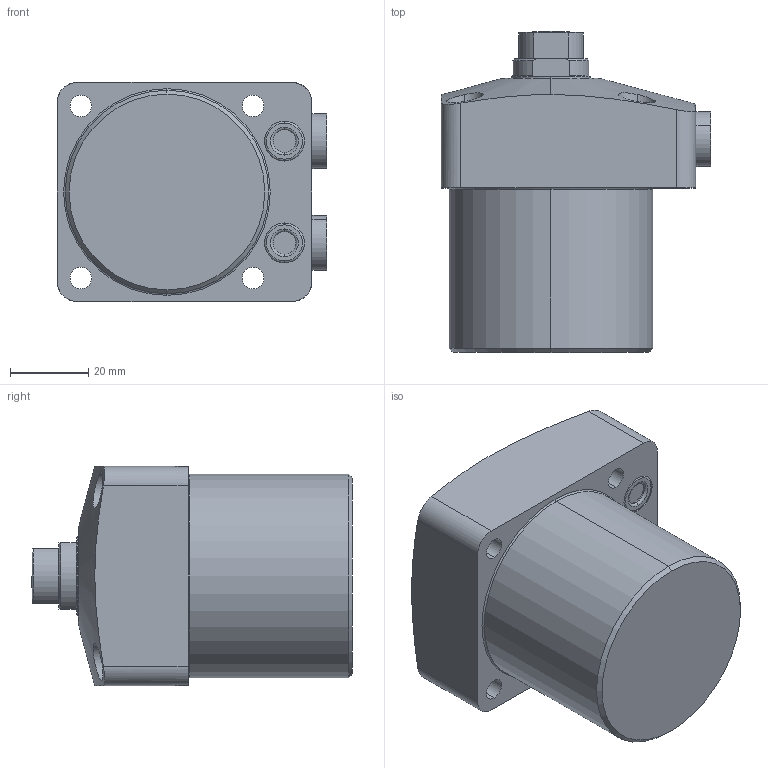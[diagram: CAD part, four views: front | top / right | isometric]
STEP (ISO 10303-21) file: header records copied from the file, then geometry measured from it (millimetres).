
FILE_DESCRIPTION(/* description */ (''),/* implementation_level */ '2;1');
FILE_NAME(/* name */ 'CSU10_step.stp',/* time_stamp */ '2022-11-16T13:24:01+08:00',/* author */ (''),/* organization */ (''),/* preprocessor_version */ 'ST-DEVELOPER v16.7',/* originating_system */ 'SIEMENS PLM Software NX 12.0',/* authorisation */ '');
FILE_SCHEMA (('AP203_CONFIGURATION_CONTROLLED_3D_DESIGN_OF_MECHANICAL_PARTS_AND_ASSEMBLIES_MIM_LF { 1 0 10303 403 2 1 2}'));
Length unit declared in the file: millimetre
Products named in the file (5): FSC010-01; FSC010-02; FSC010-03; FSC010-04; CSU10_step
Assembly tree (5 placements, depth 2):
  CSU10_step
    FSC010-04  x2
    FSC010-03
    FSC010-02
    FSC010-01
Bounding box: 68.8 x 82 x 56 mm (x, y, z)
Volume: 178472.2 mm3; surface area: 27862.7 mm2
Topology: 5 solids, 7 shells, 198 faces, 432 edges, 267 vertices
Faces by surface type: cylinder 82, plane 56, torus 30, cone 28, sphere 2
Entity records: 5633 total; most frequent: CARTESIAN_POINT 975, DIRECTION 948, ORIENTED_EDGE 780, AXIS2_PLACEMENT_3D 408, EDGE_CURVE 390, VERTEX_POINT 241, CIRCLE 224, EDGE_LOOP 209
